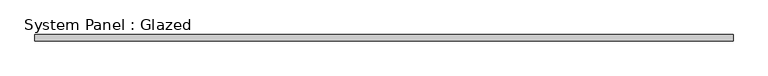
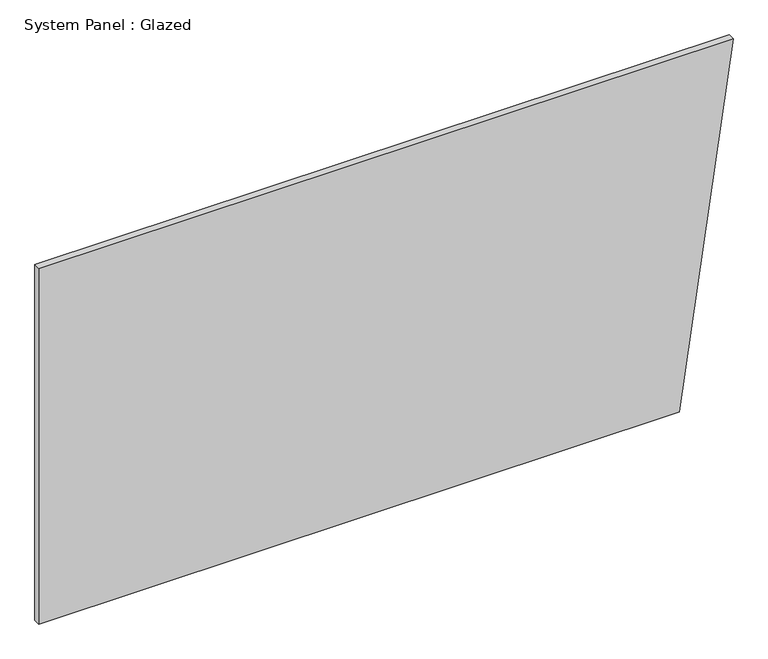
"""IFC4 building model written with IfcOpenShell, lengths in millimetres: plate geometry, System Panel : Glazed."""

from ifc_helpers import new_model, si_unit, frame, origin, place, context, project, spatial, polyline, outline, extrude, source, transform, mapped, element, save


def system_panel_glazed_2e0de5f2(model_context):
    return source(origin(), model_context, "Body", "SweptSolid", [
        extrude(outline(polyline([(0.0, -1406.1122937), (0.0, 1189.0669386), (1524.0, 1406.1122937), (1524.0, -1406.1122937), (0.0, -1406.1122937)])), frame((0.0, 19.05, 0.0), z_axis=(0.0, 1.0, 0.0), x_axis=(0.0, 0.0, 1.0)), (0.0, 0.0, 1.0), 25.4),
    ])


if __name__ == "__main__":
    model = new_model("IFC4")
    model_context = context("Model", 3, world=origin())
    ifc_project = project(units=[si_unit("LENGTHUNIT", "METRE", prefix="MILLI")], contexts=[model_context])
    site = spatial("IfcSite", under=ifc_project)
    building = spatial("IfcBuilding", under=site)
    placement = place(None, origin())
    system_panel_glazed_shape = system_panel_glazed_2e0de5f2(model_context)
    element("IfcPlate", 1, ObjectType="System Panel : Glazed", at=placement, inside=building, context=model_context, shape_type="MappedRepresentation", body=[
        mapped(system_panel_glazed_shape, transform((0.0, 0.0, 0.0), x_axis=(1.0, 0.0, 0.0), y_axis=(0.0, 1.0, 0.0), z_axis=(0.0, 0.0, 1.0))),
    ])
    save(model, "model.ifc")
